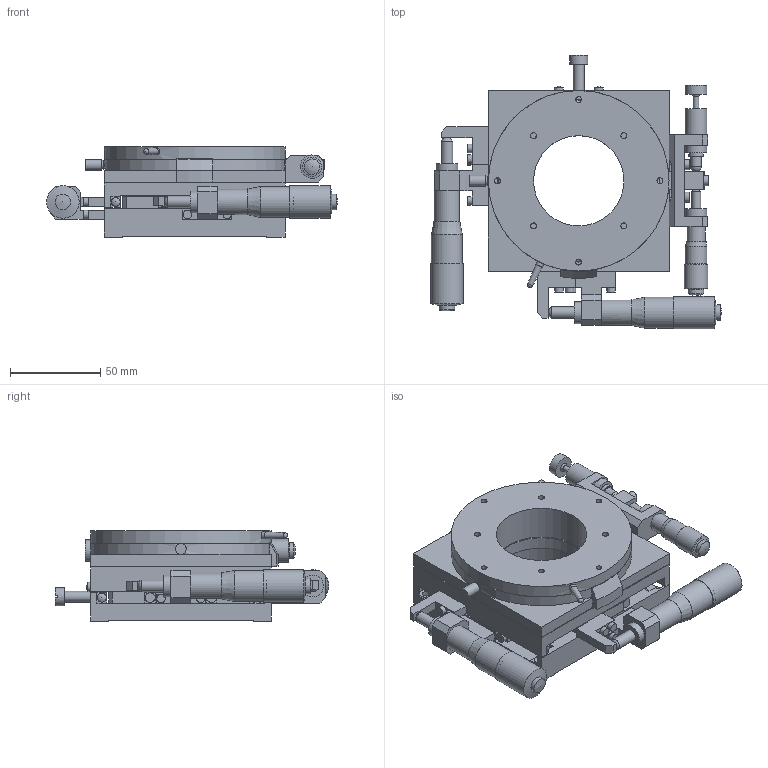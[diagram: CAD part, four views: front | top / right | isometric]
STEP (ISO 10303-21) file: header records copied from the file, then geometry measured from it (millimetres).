
FILE_DESCRIPTION( ( 'STEP AP203' ), '1' );
FILE_NAME( 'C:/3D-Trans/3D_B220-100CN+080903.step', '2008-09-03T10:55:42', ( ' ' ), ( ' ' ), 'XStep 1.0', ' ', ' ' );
FILE_SCHEMA( ( 'CONFIG_CONTROL_DESIGN' ) );
Length unit declared in the file: millimetre
Products named in the file (12): 1; 2; 3; 4; 5; 6; 7; 8; 9; 10; 11; 12
Bounding box: 161 x 151.62 x 50 mm (x, y, z)
Volume: 349678.6 mm3; surface area: 165279.7 mm2
Topology: 12 solids, 13 shells, 597 faces, 1527 edges, 1020 vertices
Faces by surface type: plane 354, cylinder 200, cone 21, sphere 21, torus 1
Full cylindrical faces by diameter (mm): 2 x8, 3 x22, 3.3 x28, 4 x1, 4.5 x4, 4.7 x8, 5 x15, 5.5 x11, 6 x4, 6.02 x1, 6.35 x4, 6.5 x2, 8 x5, 8.6 x3, 8.7 x1, 9 x1, 10 x3, 10.5 x1, 12 x9, 13 x1, 14 x2, 16.8 x2, 17.2 x2, 18 x2, 50 x2, 55.2 x1, 55.5 x1, 56 x1, 60 x2, 66 x1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
Entity records: 16982 total; most frequent: CARTESIAN_POINT 2962, DIRECTION 2846, ORIENTED_EDGE 2414, EDGE_CURVE 1207, AXIS2_PLACEMENT_3D 1043, EDGE_LOOP 947, VERTEX_POINT 907, LINE 760
